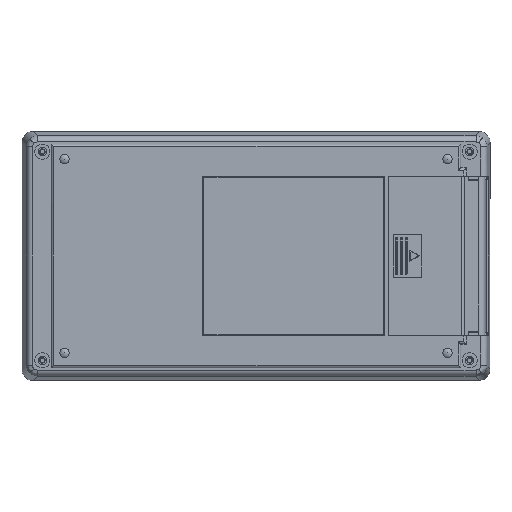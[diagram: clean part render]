
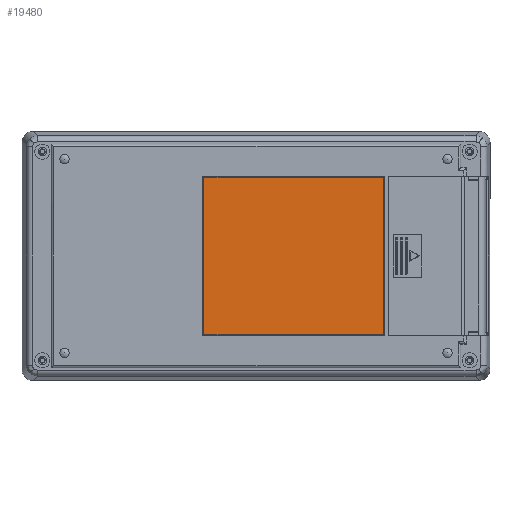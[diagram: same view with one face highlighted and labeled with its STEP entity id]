
A CAD part, front view. The second image highlights one B-rep face of the part: STEP entity #19480.
In plain terms, the highlighted planar face has unit normal (0, -1, 0).
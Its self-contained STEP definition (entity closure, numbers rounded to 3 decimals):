
#14 = LINE ( 'NONE', #12709, #7784 ) ;
#478 = LINE ( 'NONE', #4704, #16583 ) ;
#1229 = VERTEX_POINT ( 'NONE', #7632 ) ;
#2723 = LINE ( 'NONE', #17687, #15220 ) ;
#3242 = ORIENTED_EDGE ( 'NONE', *, *, #5994, .T. ) ;
#3410 = DIRECTION ( 'NONE',  ( -1., 0., 0. ) ) ;
#3454 = CARTESIAN_POINT ( 'NONE',  ( -95.3, -14.3, -50.7 ) ) ;
#4704 = CARTESIAN_POINT ( 'NONE',  ( 52., -14.3, -32. ) ) ;
#5994 = EDGE_CURVE ( 'NONE', #8461, #16541, #7695, .T. ) ;
#7395 = VERTEX_POINT ( 'NONE', #11791 ) ;
#7632 = CARTESIAN_POINT ( 'NONE',  ( -21.2, -14.3, -32. ) ) ;
#7695 = LINE ( 'NONE', #14391, #20155 ) ;
#7784 = VECTOR ( 'NONE', #17350, 1000. ) ;
#8461 = VERTEX_POINT ( 'NONE', #9028 ) ;
#8763 = EDGE_CURVE ( 'NONE', #16541, #1229, #2723, .T. ) ;
#9006 = ORIENTED_EDGE ( 'NONE', *, *, #11049, .T. ) ;
#9028 = CARTESIAN_POINT ( 'NONE',  ( 52., -14.3, 32. ) ) ;
#9262 = CARTESIAN_POINT ( 'NONE',  ( -21.2, -14.3, 32. ) ) ;
#9774 = DIRECTION ( 'NONE',  ( 0., 0., -1. ) ) ;
#9864 = DIRECTION ( 'NONE',  ( 0., 0., -1. ) ) ;
#10487 = FACE_OUTER_BOUND ( 'NONE', #17694, .T. ) ;
#11049 = EDGE_CURVE ( 'NONE', #7395, #8461, #14, .T. ) ;
#11624 = AXIS2_PLACEMENT_3D ( 'NONE', #3454, #19111, #9774 ) ;
#11791 = CARTESIAN_POINT ( 'NONE',  ( 52., -14.3, -32. ) ) ;
#12709 = CARTESIAN_POINT ( 'NONE',  ( 52., -14.3, 32. ) ) ;
#13851 = ORIENTED_EDGE ( 'NONE', *, *, #8763, .T. ) ;
#14391 = CARTESIAN_POINT ( 'NONE',  ( 52., -14.3, 32. ) ) ;
#14426 = PLANE ( 'NONE',  #11624 ) ;
#15220 = VECTOR ( 'NONE', #9864, 1000. ) ;
#15649 = DIRECTION ( 'NONE',  ( 1., 0., 0. ) ) ;
#16541 = VERTEX_POINT ( 'NONE', #9262 ) ;
#16583 = VECTOR ( 'NONE', #15649, 1000. ) ;
#16893 = ORIENTED_EDGE ( 'NONE', *, *, #18851, .T. ) ;
#17350 = DIRECTION ( 'NONE',  ( 0., 0., 1. ) ) ;
#17687 = CARTESIAN_POINT ( 'NONE',  ( -21.2, -14.3, 32. ) ) ;
#17694 = EDGE_LOOP ( 'NONE', ( #16893, #9006, #3242, #13851 ) ) ;
#18851 = EDGE_CURVE ( 'NONE', #1229, #7395, #478, .T. ) ;
#19111 = DIRECTION ( 'NONE',  ( 0., -1., 0. ) ) ;
#19480 = ADVANCED_FACE ( 'NONE', ( #10487 ), #14426, .T. ) ;
#20155 = VECTOR ( 'NONE', #3410, 1000. ) ;
